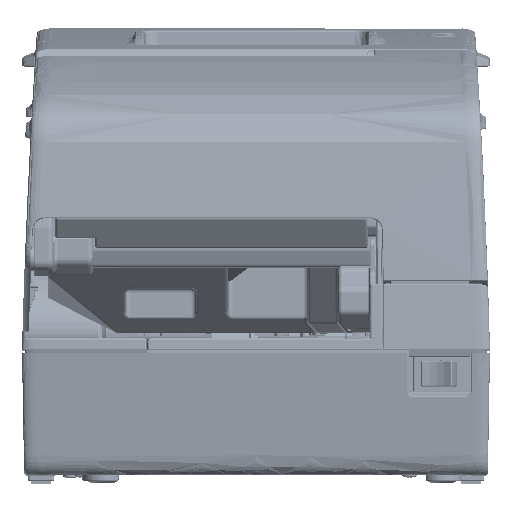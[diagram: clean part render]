
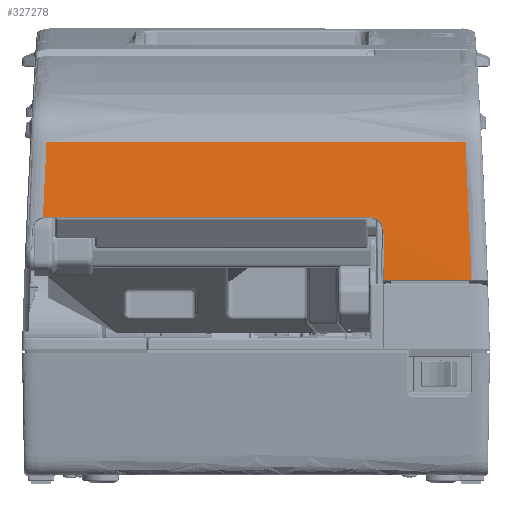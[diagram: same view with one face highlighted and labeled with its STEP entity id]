
A CAD part, top view. The second image highlights one B-rep face of the part: STEP entity #327278.
In plain terms, the highlighted cylindrical face has radius 850 mm (diameter 1700 mm), a partial arc.
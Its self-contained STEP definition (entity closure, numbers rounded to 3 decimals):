
#307161=DIRECTION('',(1.,0.,0.));
#307162=VECTOR('',#307161,34.667);
#307163=CARTESIAN_POINT('',(5.791,-51.41,
99.417));
#307164=LINE('',#307163,#307162);
#307165=CARTESIAN_POINT('',(5.791,-51.41,
99.417));
#307166=CARTESIAN_POINT('',(5.753,-49.235,
99.244));
#307167=CARTESIAN_POINT('',(5.678,-44.886,
98.882));
#307168=CARTESIAN_POINT('',(5.564,-38.367,
98.289));
#307169=CARTESIAN_POINT('',(5.488,-34.024,
97.86));
#307170=CARTESIAN_POINT('',(5.45,-31.853,
97.637));
#307172=CARTESIAN_POINT('',(5.45,-31.853,
97.637));
#307173=CARTESIAN_POINT('',(5.449,-31.767,
97.628));
#307174=CARTESIAN_POINT('',(5.442,-31.594,
97.611));
#307175=CARTESIAN_POINT('',(5.419,-31.335,
97.584));
#307176=CARTESIAN_POINT('',(5.384,-31.077,
97.557));
#307177=CARTESIAN_POINT('',(5.336,-30.821,
97.531));
#307178=CARTESIAN_POINT('',(5.277,-30.568,
97.504));
#307179=CARTESIAN_POINT('',(5.206,-30.318,
97.478));
#307180=CARTESIAN_POINT('',(5.123,-30.071,
97.453));
#307181=CARTESIAN_POINT('',(5.029,-29.829,
97.427));
#307182=CARTESIAN_POINT('',(4.923,-29.592,
97.402));
#307183=CARTESIAN_POINT('',(4.806,-29.36,
97.378));
#307184=CARTESIAN_POINT('',(4.679,-29.133,
97.354));
#307185=CARTESIAN_POINT('',(4.541,-28.913,
97.33));
#307186=CARTESIAN_POINT('',(4.393,-28.7,
97.308));
#307187=CARTESIAN_POINT('',(4.235,-28.494,
97.286));
#307188=CARTESIAN_POINT('',(4.068,-28.296,
97.265));
#307189=CARTESIAN_POINT('',(3.891,-28.107,
97.244));
#307190=CARTESIAN_POINT('',(3.706,-27.925,
97.225));
#307191=CARTESIAN_POINT('',(3.513,-27.753,
97.206));
#307192=CARTESIAN_POINT('',(3.312,-27.59,
97.189));
#307193=CARTESIAN_POINT('',(3.103,-27.437,
97.172));
#307194=CARTESIAN_POINT('',(2.888,-27.293,
97.157));
#307195=CARTESIAN_POINT('',(2.666,-27.161,
97.142));
#307196=CARTESIAN_POINT('',(2.438,-27.038,
97.129));
#307197=CARTESIAN_POINT('',(2.205,-26.927,
97.117));
#307198=CARTESIAN_POINT('',(1.967,-26.827,
97.106));
#307199=CARTESIAN_POINT('',(1.724,-26.738,
97.097));
#307200=CARTESIAN_POINT('',(1.478,-26.66,
97.088));
#307201=CARTESIAN_POINT('',(1.229,-26.594,
97.081));
#307202=CARTESIAN_POINT('',(0.976,-26.54,
97.075));
#307203=CARTESIAN_POINT('',(0.721,-26.498,
97.07));
#307204=CARTESIAN_POINT('',(0.465,-26.468,
97.067));
#307205=CARTESIAN_POINT('',(0.208,-26.45,
97.065));
#307206=CARTESIAN_POINT('',(0.037,-26.446,
97.065));
#307207=CARTESIAN_POINT('',(-0.049,-26.446,
97.065));
#307209=DIRECTION('',(-1.,0.,0.));
#307210=VECTOR('',#307209,129.068);
#307211=CARTESIAN_POINT('',(-0.049,-26.446,
97.065));
#307212=LINE('',#307211,#307210);
#307213=CARTESIAN_POINT('',(-129.117,-26.446,
97.065));
#307214=CARTESIAN_POINT('',(-129.182,-26.446,
97.065));
#307215=CARTESIAN_POINT('',(-129.31,-26.448,
97.065));
#307216=CARTESIAN_POINT('',(-129.503,-26.458,
97.066));
#307217=CARTESIAN_POINT('',(-129.694,-26.475,
97.068));
#307218=CARTESIAN_POINT('',(-129.822,-26.491,
97.07));
#307219=CARTESIAN_POINT('',(-129.885,-26.5,
97.071));
#307221=DIRECTION('',(-1.,0.,0.));
#307222=VECTOR('',#307221,166.507);
#307223=CARTESIAN_POINT('',(38.053,3.2,
93.302));
#307224=LINE('',#307223,#307222);
#309596=CARTESIAN_POINT('',(38.053,3.2,
93.302));
#309597=CARTESIAN_POINT('',(38.193,0.583,
93.681));
#309598=CARTESIAN_POINT('',(38.464,-4.655,
94.414));
#309599=CARTESIAN_POINT('',(38.852,-12.521,
95.441));
#309600=CARTESIAN_POINT('',(39.218,-20.394,
96.395));
#309601=CARTESIAN_POINT('',(39.565,-28.274,
97.275));
#309602=CARTESIAN_POINT('',(39.891,-36.161,
98.081));
#309603=CARTESIAN_POINT('',(40.189,-43.874,
98.796));
#309604=CARTESIAN_POINT('',(40.373,-48.958,
99.222));
#309605=CARTESIAN_POINT('',(40.459,-51.41,
99.417));
#309624=CARTESIAN_POINT('',(-128.453,3.2,
93.302));
#309625=CARTESIAN_POINT('',(-128.593,0.583,
93.681));
#309626=CARTESIAN_POINT('',(-128.864,-4.655,
94.414));
#309627=CARTESIAN_POINT('',(-129.252,-12.521,
95.441));
#309628=CARTESIAN_POINT('',(-129.591,-19.802,
96.323));
#309629=CARTESIAN_POINT('',(-129.797,-24.464,
96.849));
#309630=CARTESIAN_POINT('',(-129.885,-26.5,
97.071));
#321918=CARTESIAN_POINT('',(38.053,3.2,
93.302));
#321919=CARTESIAN_POINT('',(-128.453,3.2,
93.302));
#321920=VERTEX_POINT('',#321918);
#321921=VERTEX_POINT('',#321919);
#322112=VERTEX_POINT('',#309630);
#322120=CARTESIAN_POINT('',(5.791,-51.41,
99.417));
#322121=CARTESIAN_POINT('',(40.459,-51.41,
99.417));
#322122=VERTEX_POINT('',#322120);
#322123=VERTEX_POINT('',#322121);
#322487=VERTEX_POINT('',#307213);
#322490=CARTESIAN_POINT('',(-0.049,-26.446,
97.065));
#322491=VERTEX_POINT('',#322490);
#323821=VERTEX_POINT('',#307172);
#327255=CARTESIAN_POINT('',(-148.2,-118.644,-747.92));
#327256=DIRECTION('',(1.,0.,0.));
#327257=DIRECTION('',(0.,0.,-1.));
#327258=AXIS2_PLACEMENT_3D('',#327255,#327256,#327257);
#327259=CYLINDRICAL_SURFACE('',#327258,850.);
#327261=ORIENTED_EDGE('',*,*,#327260,.F.);
#327263=ORIENTED_EDGE('',*,*,#327262,.T.);
#327265=ORIENTED_EDGE('',*,*,#327264,.T.);
#327267=ORIENTED_EDGE('',*,*,#327266,.T.);
#327269=ORIENTED_EDGE('',*,*,#327268,.T.);
#327271=ORIENTED_EDGE('',*,*,#327270,.F.);
#327273=ORIENTED_EDGE('',*,*,#327272,.F.);
#327275=ORIENTED_EDGE('',*,*,#327274,.T.);
#327276=EDGE_LOOP('',(#327261,#327263,#327265,#327267,#327269,#327271,#327273,
#327275));
#327277=FACE_OUTER_BOUND('',#327276,.F.);
#307171=B_SPLINE_CURVE_WITH_KNOTS('',3,(#307165,#307166,#307167,#307168,#307169,
#307170),.UNSPECIFIED.,.F.,.F.,(4,1,1,4),(0.,0.333,
0.667,1.),.UNSPECIFIED.);
#307208=B_SPLINE_CURVE_WITH_KNOTS('',3,(#307172,#307173,#307174,#307175,#307176,
#307177,#307178,#307179,#307180,#307181,#307182,#307183,#307184,#307185,#307186,
#307187,#307188,#307189,#307190,#307191,#307192,#307193,#307194,#307195,#307196,
#307197,#307198,#307199,#307200,#307201,#307202,#307203,#307204,#307205,#307206,
#307207),.UNSPECIFIED.,.F.,.F.,(4,1,1,1,1,1,1,1,1,1,1,1,1,1,1,1,1,1,1,1,1,1,1,1,
1,1,1,1,1,1,1,1,1,4),(0.,0.03,0.061,
0.091,0.121,0.152,0.182,
0.212,0.242,0.273,0.303,
0.333,0.364,0.394,0.424,
0.455,0.485,0.515,0.545,
0.576,0.606,0.636,0.667,
0.697,0.727,0.758,0.788,
0.818,0.848,0.879,0.909,
0.939,0.97,1.),.UNSPECIFIED.);
#307220=B_SPLINE_CURVE_WITH_KNOTS('',3,(#307213,#307214,#307215,#307216,#307217,
#307218,#307219),.UNSPECIFIED.,.F.,.F.,(4,1,1,1,4),(0.,0.25,0.5,0.75,
1.),.UNSPECIFIED.);
#309606=B_SPLINE_CURVE_WITH_KNOTS('',3,(#309596,#309597,#309598,#309599,#309600,
#309601,#309602,#309603,#309604,#309605),.UNSPECIFIED.,.F.,.F.,(4,1,1,1,1,1,1,
4),(0.,0.144,0.289,0.433,
0.577,0.721,0.866,1.),.UNSPECIFIED.);
#309631=B_SPLINE_CURVE_WITH_KNOTS('',3,(#309624,#309625,#309626,#309627,#309628,
#309629,#309630),.UNSPECIFIED.,.F.,.F.,(4,1,1,1,4),(0.,0.265,
0.53,0.795,1.),.UNSPECIFIED.);
#327260=EDGE_CURVE('',#322122,#322123,#307164,.T.);
#327262=EDGE_CURVE('',#322122,#323821,#307171,.T.);
#327264=EDGE_CURVE('',#323821,#322491,#307208,.T.);
#327266=EDGE_CURVE('',#322491,#322487,#307212,.T.);
#327268=EDGE_CURVE('',#322487,#322112,#307220,.T.);
#327270=EDGE_CURVE('',#321921,#322112,#309631,.T.);
#327272=EDGE_CURVE('',#321920,#321921,#307224,.T.);
#327274=EDGE_CURVE('',#321920,#322123,#309606,.T.);
#327278=ADVANCED_FACE('',(#327277),#327259,.T.);
